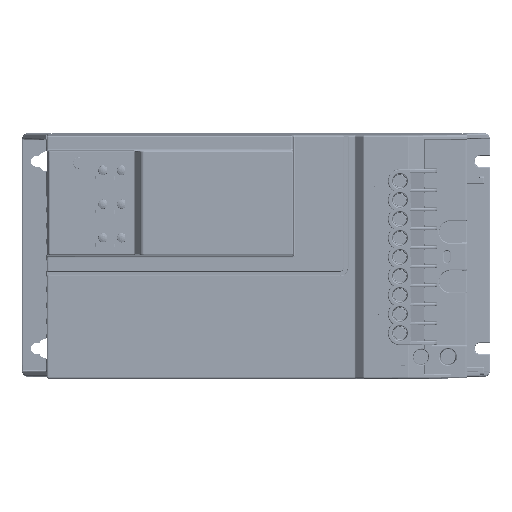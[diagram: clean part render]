
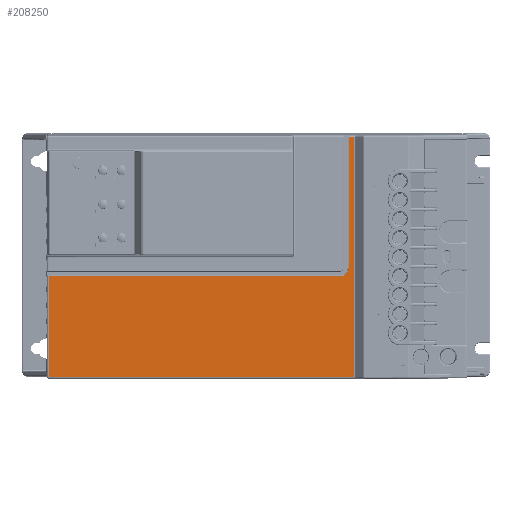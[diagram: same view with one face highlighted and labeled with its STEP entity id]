
A CAD part, left-side view. The second image highlights one B-rep face of the part: STEP entity #208250.
In plain terms, the highlighted planar face has unit normal (-1, 0, -0.008) as drawn and (0, 0, 1) by its records, which use the part's own axes.
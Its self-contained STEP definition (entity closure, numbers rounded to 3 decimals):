
#138449=CARTESIAN_POINT('',(64.,-48.918,
151.3));
#138460=DIRECTION('',(0.,1.,0.));
#138461=VECTOR('',#138460,3.068);
#138462=CARTESIAN_POINT('',(64.,-51.986,151.3));
#138463=LINE('',#138462,#138461);
#157635=DIRECTION('',(-1.,0.,0.));
#157636=VECTOR('',#157635,53.682);
#157637=CARTESIAN_POINT('',(-10.318,111.3,
151.3));
#157638=LINE('',#157637,#157636);
#157643=CARTESIAN_POINT('',(-10.318,111.3,
151.3));
#157673=DIRECTION('',(0.,1.,0.));
#157674=VECTOR('',#157673,155.72);
#157675=CARTESIAN_POINT('',(-10.318,-44.42,151.3));
#157676=LINE('',#157675,#157674);
#157687=CARTESIAN_POINT('',(-5.821,-48.918,151.3));
#157688=CARTESIAN_POINT('',(-6.22,-48.918,
151.3));
#157689=CARTESIAN_POINT('',(-6.99,-48.816,
151.3));
#157690=CARTESIAN_POINT('',(-8.094,-48.362,
151.3));
#157691=CARTESIAN_POINT('',(-9.038,-47.637,
151.3));
#157692=CARTESIAN_POINT('',(-9.763,-46.693,
151.3));
#157693=CARTESIAN_POINT('',(-10.217,-45.589,
151.3));
#157694=CARTESIAN_POINT('',(-10.318,-44.819,
151.3));
#157695=CARTESIAN_POINT('',(-10.318,-44.42,151.3));
#157736=DIRECTION('',(-1.,0.,0.));
#157737=VECTOR('',#157736,69.821);
#157738=CARTESIAN_POINT('',(64.,-48.918,
151.3));
#157739=LINE('',#157738,#157737);
#157744=DIRECTION('',(1.,0.,0.));
#157745=VECTOR('',#157744,128.);
#157746=CARTESIAN_POINT('',(-64.,-51.986,151.3));
#157747=LINE('',#157746,#157745);
#157763=DIRECTION('',(0.,-1.,0.));
#157764=VECTOR('',#157763,163.286);
#157765=CARTESIAN_POINT('',(-64.,111.3,151.3));
#157766=LINE('',#157765,#157764);
#175907=VERTEX_POINT('',#138449);
#175910=CARTESIAN_POINT('',(64.,-51.986,151.3));
#175911=VERTEX_POINT('',#175910);
#180059=CARTESIAN_POINT('',(-64.,111.3,151.3));
#180060=VERTEX_POINT('',#180059);
#180061=VERTEX_POINT('',#157643);
#180065=CARTESIAN_POINT('',(-10.318,-44.421,151.3));
#180066=VERTEX_POINT('',#180065);
#180068=CARTESIAN_POINT('',(-5.821,-48.918,151.3));
#180069=VERTEX_POINT('',#180068);
#180070=CARTESIAN_POINT('',(-64.,-51.986,151.3));
#180071=VERTEX_POINT('',#180070);
#208234=CARTESIAN_POINT('',(0.,0.,151.3));
#208235=DIRECTION('',(0.,0.,1.));
#208236=DIRECTION('',(0.,-1.,0.));
#208237=AXIS2_PLACEMENT_3D('',#208234,#208235,#208236);
#208238=PLANE('',#208237);
#208239=ORIENTED_EDGE('',*,*,#208228,.F.);
#208240=ORIENTED_EDGE('',*,*,#183194,.F.);
#208242=ORIENTED_EDGE('',*,*,#208241,.F.);
#208244=ORIENTED_EDGE('',*,*,#208243,.F.);
#208245=ORIENTED_EDGE('',*,*,#208030,.F.);
#208246=ORIENTED_EDGE('',*,*,#208134,.F.);
#208247=ORIENTED_EDGE('',*,*,#208189,.F.);
#208248=EDGE_LOOP('',(#208239,#208240,#208242,#208244,#208245,#208246,#208247));
#208249=FACE_OUTER_BOUND('',#208248,.F.);
#208250=ADVANCED_FACE('',(#208249),#208238,.T.);
#157696=B_SPLINE_CURVE_WITH_KNOTS('',3,(#157687,#157688,#157689,#157690,#157691,
#157692,#157693,#157694,#157695),.UNSPECIFIED.,.F.,.F.,(4,1,1,1,1,1,4),(0.,
0.167,0.333,0.5,0.667,0.833,
1.),.UNSPECIFIED.);
#183194=EDGE_CURVE('',#175911,#175907,#138463,.T.);
#208030=EDGE_CURVE('',#180061,#180060,#157638,.T.);
#208134=EDGE_CURVE('',#180066,#180061,#157676,.T.);
#208189=EDGE_CURVE('',#180069,#180066,#157696,.T.);
#208228=EDGE_CURVE('',#175907,#180069,#157739,.T.);
#208241=EDGE_CURVE('',#180071,#175911,#157747,.T.);
#208243=EDGE_CURVE('',#180060,#180071,#157766,.T.);
